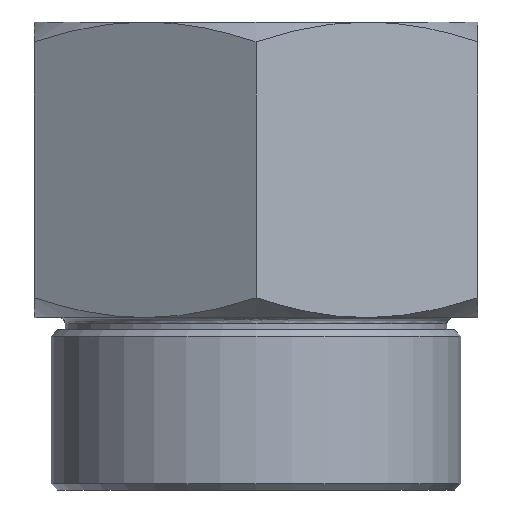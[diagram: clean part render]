
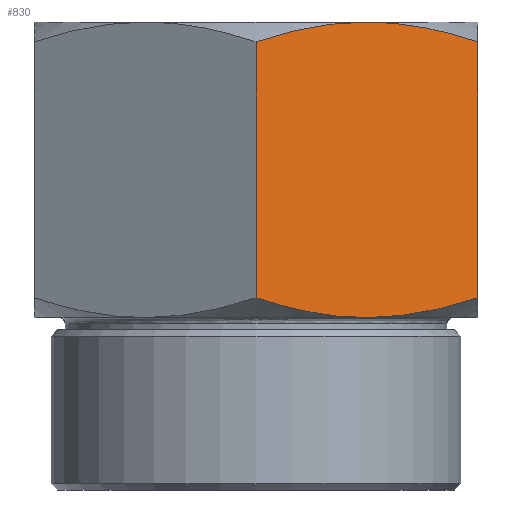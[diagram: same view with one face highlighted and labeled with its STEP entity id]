
A CAD part, left-side view. The second image highlights one B-rep face of the part: STEP entity #830.
In plain terms, the highlighted planar face has unit normal (-0.866, -0.5, 0).
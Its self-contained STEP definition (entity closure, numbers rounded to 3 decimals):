
#189=CARTESIAN_POINT('',(-15.588,-9.,0.0));
#190=VERTEX_POINT('',#189);
#323=CARTESIAN_POINT('',(-15.588,-9.,24.));
#324=VERTEX_POINT('',#323);
#442=CARTESIAN_POINT('',(-20.785,0.,1.608));
#443=VERTEX_POINT('',#442);
#444=CARTESIAN_POINT('',(-20.785,0.,1.608));
#445=CARTESIAN_POINT('',(-18.,-4.823,0.));
#446=CARTESIAN_POINT('',(-15.588,-9.,0.0));
#454=(BOUNDED_CURVE()B_SPLINE_CURVE(2,(#444,#445,#446),.UNSPECIFIED.,.F.,.U.)B_SPLINE_CURVE_WITH_KNOTS((3,3),(0.575,1.717),.UNSPECIFIED.)CURVE()GEOMETRIC_REPRESENTATION_ITEM()RATIONAL_B_SPLINE_CURVE((1.039,1.058,1.0))REPRESENTATION_ITEM(''));
#455=EDGE_CURVE('',#443,#190,#454,.T.);
#479=CARTESIAN_POINT('',(-10.392,-18.,1.608));
#480=VERTEX_POINT('',#479);
#481=CARTESIAN_POINT('',(-15.588,-9.,0.0));
#482=CARTESIAN_POINT('',(-13.177,-13.177,0.));
#483=CARTESIAN_POINT('',(-10.392,-18.,1.608));
#491=(BOUNDED_CURVE()B_SPLINE_CURVE(2,(#481,#482,#483),.UNSPECIFIED.,.F.,.U.)B_SPLINE_CURVE_WITH_KNOTS((3,3),(1.717,2.86),.UNSPECIFIED.)CURVE()GEOMETRIC_REPRESENTATION_ITEM()RATIONAL_B_SPLINE_CURVE((1.0,1.058,1.039))REPRESENTATION_ITEM(''));
#492=EDGE_CURVE('',#190,#480,#491,.T.);
#664=CARTESIAN_POINT('',(-10.392,-18.,22.392));
#665=VERTEX_POINT('',#664);
#680=CARTESIAN_POINT('',(-10.392,-18.,22.392));
#681=CARTESIAN_POINT('',(-13.177,-13.177,24.));
#682=CARTESIAN_POINT('',(-15.588,-9.,24.));
#690=(BOUNDED_CURVE()B_SPLINE_CURVE(2,(#680,#681,#682),.UNSPECIFIED.,.F.,.U.)B_SPLINE_CURVE_WITH_KNOTS((3,3),(0.575,1.717),.UNSPECIFIED.)CURVE()GEOMETRIC_REPRESENTATION_ITEM()RATIONAL_B_SPLINE_CURVE((1.039,1.058,1.0))REPRESENTATION_ITEM(''));
#691=EDGE_CURVE('',#665,#324,#690,.T.);
#701=CARTESIAN_POINT('',(-20.785,0.,22.392));
#702=VERTEX_POINT('',#701);
#703=CARTESIAN_POINT('',(-15.588,-9.,24.));
#704=CARTESIAN_POINT('',(-18.,-4.823,24.));
#705=CARTESIAN_POINT('',(-20.785,0.,22.392));
#713=(BOUNDED_CURVE()B_SPLINE_CURVE(2,(#703,#704,#705),.UNSPECIFIED.,.F.,.U.)B_SPLINE_CURVE_WITH_KNOTS((3,3),(1.717,2.86),.UNSPECIFIED.)CURVE()GEOMETRIC_REPRESENTATION_ITEM()RATIONAL_B_SPLINE_CURVE((1.0,1.058,1.039))REPRESENTATION_ITEM(''));
#714=EDGE_CURVE('',#324,#702,#713,.T.);
#807=CARTESIAN_POINT('',(-10.392,-18.,0.0));
#808=DIRECTION('',(-0.866,-0.5,0.0));
#809=DIRECTION('',(0.0,0.0,1.0));
#810=AXIS2_PLACEMENT_3D('',#807,#808,#809);
#811=PLANE('',#810);
#812=ORIENTED_EDGE('',*,*,#455,.T.);
#813=ORIENTED_EDGE('',*,*,#492,.T.);
#814=CARTESIAN_POINT('',(-10.392,-18.,1.608));
#815=DIRECTION('',(0.0,0.0,1.0));
#816=VECTOR('',#815,20.785);
#817=LINE('',#814,#816);
#818=EDGE_CURVE('',#480,#665,#817,.T.);
#819=ORIENTED_EDGE('',*,*,#818,.T.);
#820=ORIENTED_EDGE('',*,*,#691,.T.);
#821=ORIENTED_EDGE('',*,*,#714,.T.);
#822=CARTESIAN_POINT('',(-20.785,0.,1.608));
#823=DIRECTION('',(0.0,0.0,1.0));
#824=VECTOR('',#823,20.785);
#825=LINE('',#822,#824);
#826=EDGE_CURVE('',#443,#702,#825,.T.);
#827=ORIENTED_EDGE('',*,*,#826,.F.);
#828=EDGE_LOOP('',(#812,#813,#819,#820,#821,#827));
#829=FACE_OUTER_BOUND('',#828,.T.);
#830=ADVANCED_FACE('',(#829),#811,.T.);
